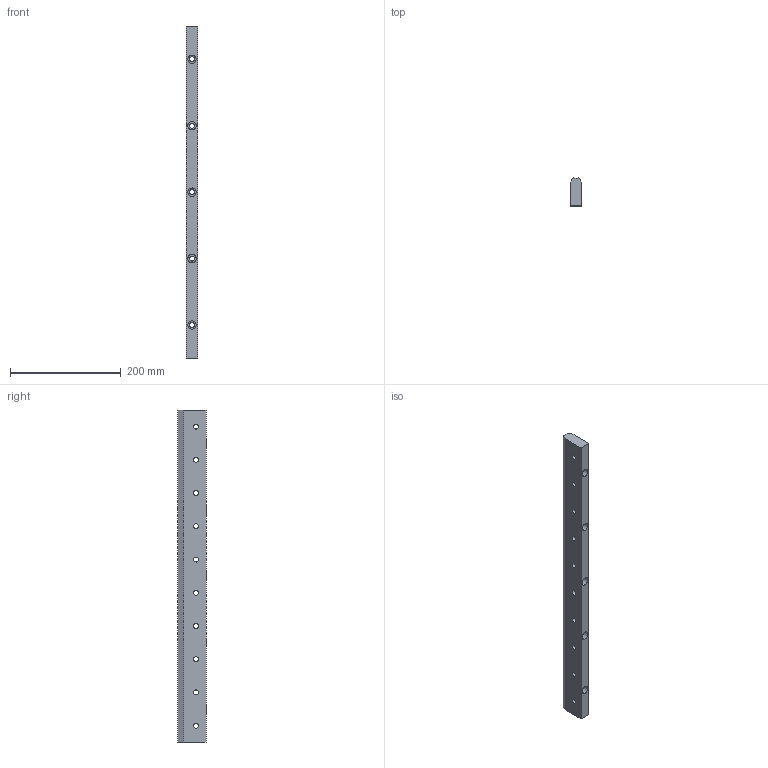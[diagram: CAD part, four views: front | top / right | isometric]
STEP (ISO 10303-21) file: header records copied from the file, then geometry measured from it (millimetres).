
FILE_DESCRIPTION (( 'STEP AP203' ), '1' );
FILE_NAME ('FKWU54-225.step', '2020-03-23T07:53:21', ( '' ), ( '' ), 'SwSTEP 2.0', 'SolidWorks 2019', '' );
FILE_SCHEMA (( 'CONFIG_CONTROL_DESIGN' ));
Length unit declared in the file: millimetre
Products named in the file (2): FKWU54-225
Bounding box: 20 x 50.6 x 599.5 mm (x, y, z)
Volume: 524540.3 mm3; surface area: 96838.8 mm2
Topology: 1 solids, 1 shells, 84 faces, 206 edges, 134 vertices
Faces by surface type: cylinder 60, plane 24
Entity records: 2735 total; most frequent: DIRECTION 478, CARTESIAN_POINT 456, ORIENTED_EDGE 412, EDGE_CURVE 206, AXIS2_PLACEMENT_3D 196, VERTEX_POINT 134, EDGE_LOOP 124, CIRCLE 110
